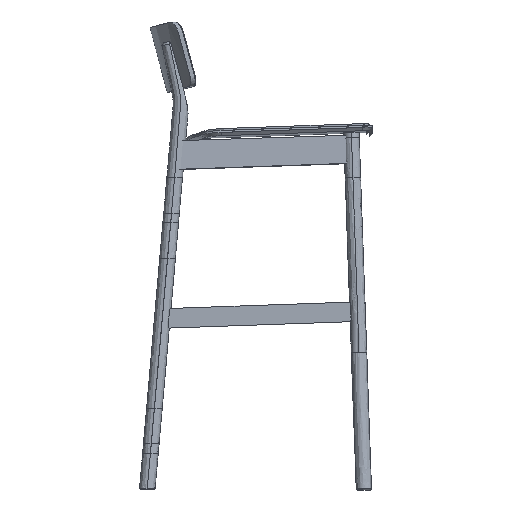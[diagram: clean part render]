
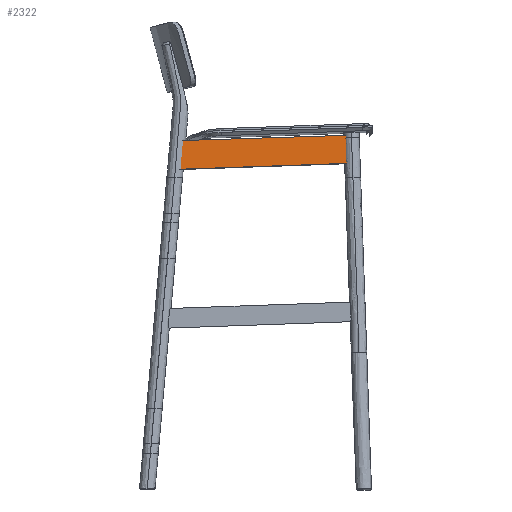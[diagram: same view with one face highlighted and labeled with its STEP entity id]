
A CAD part, left-side view. The second image highlights one B-rep face of the part: STEP entity #2322.
In plain terms, the highlighted planar face has unit normal (-0.999, 0, 0.035).
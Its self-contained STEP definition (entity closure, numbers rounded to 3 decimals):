
#53=PLANE('',#6152);
#2322=ADVANCED_FACE('',(#2515),#53,.T.);
#2515=FACE_OUTER_BOUND('',#2708,.T.);
#2708=EDGE_LOOP('',(#3170,#3171,#3172,#3173));
#3170=ORIENTED_EDGE('',*,*,#3978,.F.);
#3171=ORIENTED_EDGE('',*,*,#3979,.T.);
#3172=ORIENTED_EDGE('',*,*,#3977,.F.);
#3173=ORIENTED_EDGE('',*,*,#3980,.T.);
#3977=EDGE_CURVE('',#5585,#5586,#4737,.T.);
#3978=EDGE_CURVE('',#5588,#5587,#4738,.T.);
#3979=EDGE_CURVE('',#5588,#5586,#5183,.T.);
#3980=EDGE_CURVE('',#5585,#5587,#5184,.T.);
#4737=B_SPLINE_CURVE_WITH_KNOTS('',1,(#11378,#11379),.UNSPECIFIED.,.F.,
 .F.,(2,2),(-441.269,-75.116),.UNSPECIFIED.);
#4738=B_SPLINE_CURVE_WITH_KNOTS('',3,(#11380,#11381,#11382,#11383,#11384,
#11385,#11386,#11387,#11388,#11389),.UNSPECIFIED.,.F.,.F.,(4,3,3,4),(82.359,
114.888,302.792,441.271),.UNSPECIFIED.);
#5183=(
BOUNDED_CURVE()
B_SPLINE_CURVE(3,(#11390,#11391,#11392,#11393,#11394,#11395,#11396),
 .UNSPECIFIED.,.F.,.F.)
B_SPLINE_CURVE_WITH_KNOTS((4,3,4),(0.927,56.354,60.356),
 .UNSPECIFIED.)
CURVE()
GEOMETRIC_REPRESENTATION_ITEM()
RATIONAL_B_SPLINE_CURVE((1.,1.,1.,1.,1.,1.,1.))
REPRESENTATION_ITEM('')
);
#5184=(
BOUNDED_CURVE()
B_SPLINE_CURVE(1,(#11397,#11398),.UNSPECIFIED.,.F.,.F.)
B_SPLINE_CURVE_WITH_KNOTS((2,2),(940.816,998.613),
 .UNSPECIFIED.)
CURVE()
GEOMETRIC_REPRESENTATION_ITEM()
RATIONAL_B_SPLINE_CURVE((1.,1.))
REPRESENTATION_ITEM('')
);
#5585=VERTEX_POINT('',#11374);
#5586=VERTEX_POINT('',#11375);
#5587=VERTEX_POINT('',#11376);
#5588=VERTEX_POINT('',#11377);
#6152=AXIS2_PLACEMENT_3D('',#11373,#6218,$);
#6218=DIRECTION('',(-0.999,0.,0.035));
#11373=CARTESIAN_POINT('',(-187.267,203.014,740.698));
#11374=CARTESIAN_POINT('',(-189.533,-199.629,675.797));
#11375=CARTESIAN_POINT('',(-189.979,166.301,663.026));
#11376=CARTESIAN_POINT('',(-187.517,-197.612,733.524));
#11377=CARTESIAN_POINT('',(-187.913,161.121,722.192));
#11378=CARTESIAN_POINT('',(-189.533,-199.629,675.797));
#11379=CARTESIAN_POINT('',(-189.979,166.301,663.026));
#11380=CARTESIAN_POINT('',(-187.913,161.121,722.192));
#11381=CARTESIAN_POINT('',(-187.901,150.284,722.528));
#11382=CARTESIAN_POINT('',(-187.889,139.446,722.863));
#11383=CARTESIAN_POINT('',(-187.878,128.608,723.199));
#11384=CARTESIAN_POINT('',(-187.81,66.003,725.137));
#11385=CARTESIAN_POINT('',(-187.741,3.4,727.118));
#11386=CARTESIAN_POINT('',(-187.671,-59.203,729.112));
#11387=CARTESIAN_POINT('',(-187.62,-105.339,730.583));
#11388=CARTESIAN_POINT('',(-187.568,-151.475,732.061));
#11389=CARTESIAN_POINT('',(-187.517,-197.612,733.524));
#11390=CARTESIAN_POINT('',(-187.913,161.121,722.192));
#11391=CARTESIAN_POINT('',(-188.555,162.732,703.798));
#11392=CARTESIAN_POINT('',(-189.197,164.342,685.404));
#11393=CARTESIAN_POINT('',(-189.84,165.952,667.01));
#11394=CARTESIAN_POINT('',(-189.886,166.068,665.682));
#11395=CARTESIAN_POINT('',(-189.933,166.185,664.354));
#11396=CARTESIAN_POINT('',(-189.979,166.301,663.026));
#11397=CARTESIAN_POINT('',(-189.533,-199.629,675.797));
#11398=CARTESIAN_POINT('',(-187.517,-197.612,733.524));
